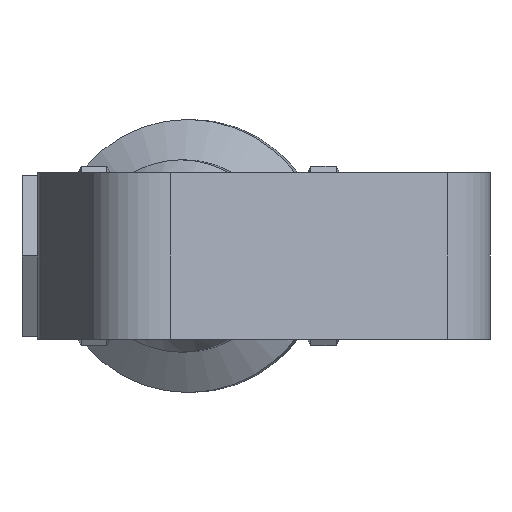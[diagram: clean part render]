
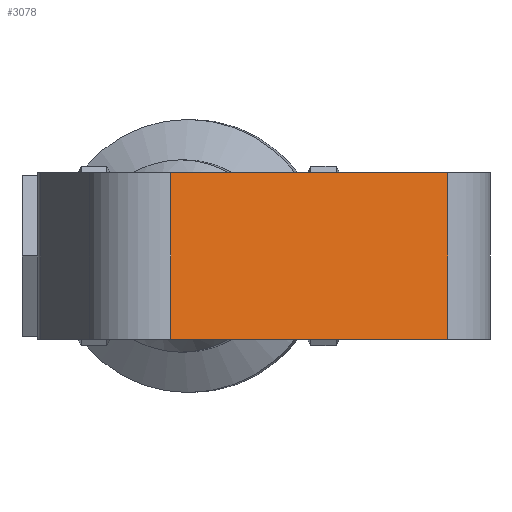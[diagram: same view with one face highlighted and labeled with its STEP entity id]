
A CAD part, front view. The second image highlights one B-rep face of the part: STEP entity #3078.
In plain terms, the highlighted planar face has unit normal (0.342, -0.94, 0).
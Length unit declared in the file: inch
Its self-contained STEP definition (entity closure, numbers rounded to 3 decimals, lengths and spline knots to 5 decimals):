
#107=PLANE('',#3402);
#244=FACE_OUTER_BOUND('',#426,.T.);
#426=EDGE_LOOP('',(#2130,#2131,#2132,#2133));
#619=LINE('',#4827,#863);
#626=LINE('',#4862,#870);
#627=LINE('',#4865,#871);
#628=LINE('',#4866,#872);
#863=VECTOR('',#3854,0.3937);
#870=VECTOR('',#3893,0.3937);
#871=VECTOR('',#3896,0.3937);
#872=VECTOR('',#3897,0.3937);
#1305=VERTEX_POINT('',#4824);
#1306=VERTEX_POINT('',#4826);
#1318=VERTEX_POINT('',#4860);
#1319=VERTEX_POINT('',#4864);
#1615=EDGE_CURVE('',#1305,#1306,#619,.T.);
#1632=EDGE_CURVE('',#1318,#1305,#626,.T.);
#1633=EDGE_CURVE('',#1319,#1318,#627,.T.);
#1634=EDGE_CURVE('',#1319,#1306,#628,.T.);
#2130=ORIENTED_EDGE('',*,*,#1632,.F.);
#2131=ORIENTED_EDGE('',*,*,#1633,.F.);
#2132=ORIENTED_EDGE('',*,*,#1634,.T.);
#2133=ORIENTED_EDGE('',*,*,#1615,.F.);
#3078=ADVANCED_FACE('',(#244),#107,.T.);
#3402=AXIS2_PLACEMENT_3D('',#4863,#3894,#3895);
#3854=DIRECTION('',(-0.94,-0.342,0.));
#3893=DIRECTION('',(0.,0.,-1.));
#3894=DIRECTION('center_axis',(0.342,-0.94,0.));
#3895=DIRECTION('ref_axis',(0.94,0.342,0.));
#3896=DIRECTION('',(0.94,0.342,0.));
#3897=DIRECTION('',(0.,0.,-1.));
#4824=CARTESIAN_POINT('',(1.86538,-3.86272,-0.65));
#4826=CARTESIAN_POINT('',(-0.29723,-4.64985,-0.65));
#4827=CARTESIAN_POINT('',(1.86538,-3.86272,-0.65));
#4860=CARTESIAN_POINT('',(1.86538,-3.86272,0.65));
#4862=CARTESIAN_POINT('',(1.86538,-3.86272,0.));
#4863=CARTESIAN_POINT('Origin',(-0.29723,-4.64985,0.));
#4864=CARTESIAN_POINT('',(-0.29723,-4.64985,0.65));
#4865=CARTESIAN_POINT('',(1.86538,-3.86272,0.65));
#4866=CARTESIAN_POINT('',(-0.29723,-4.64985,0.));
